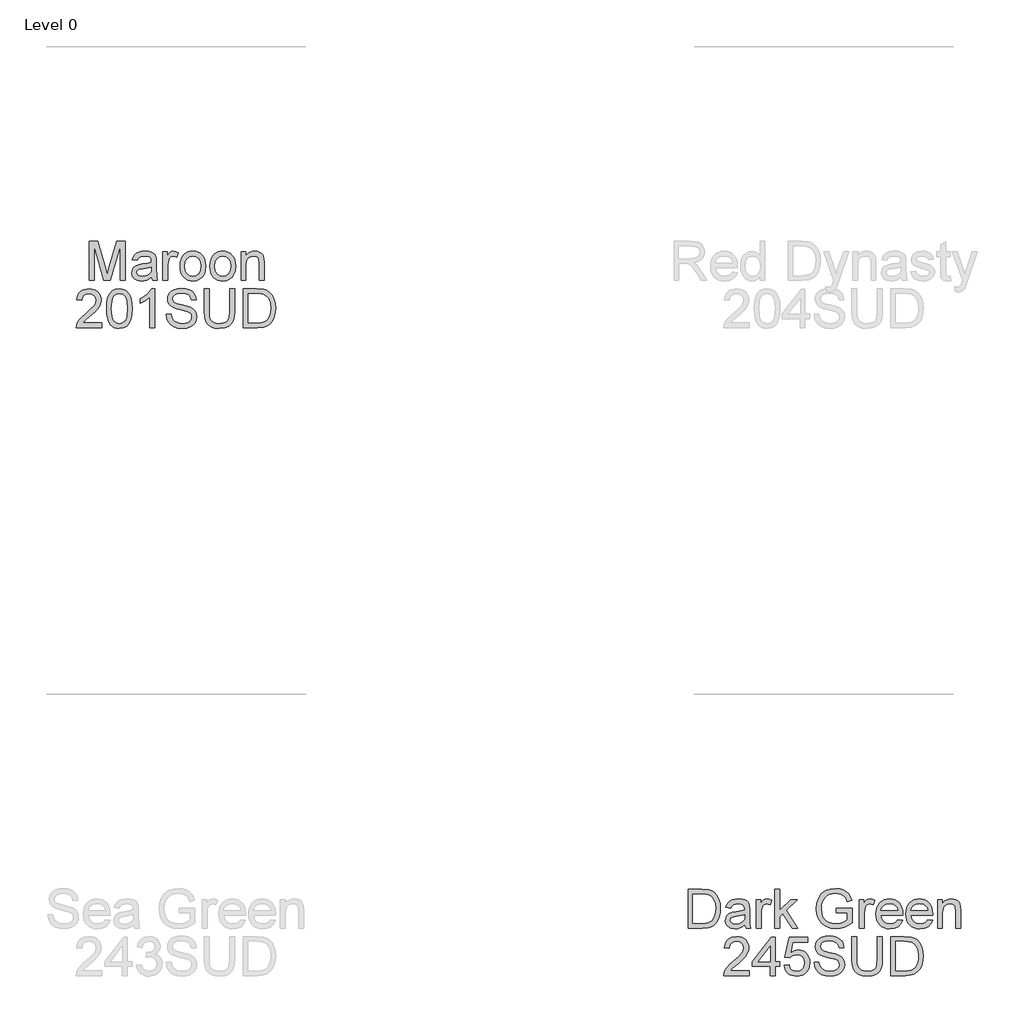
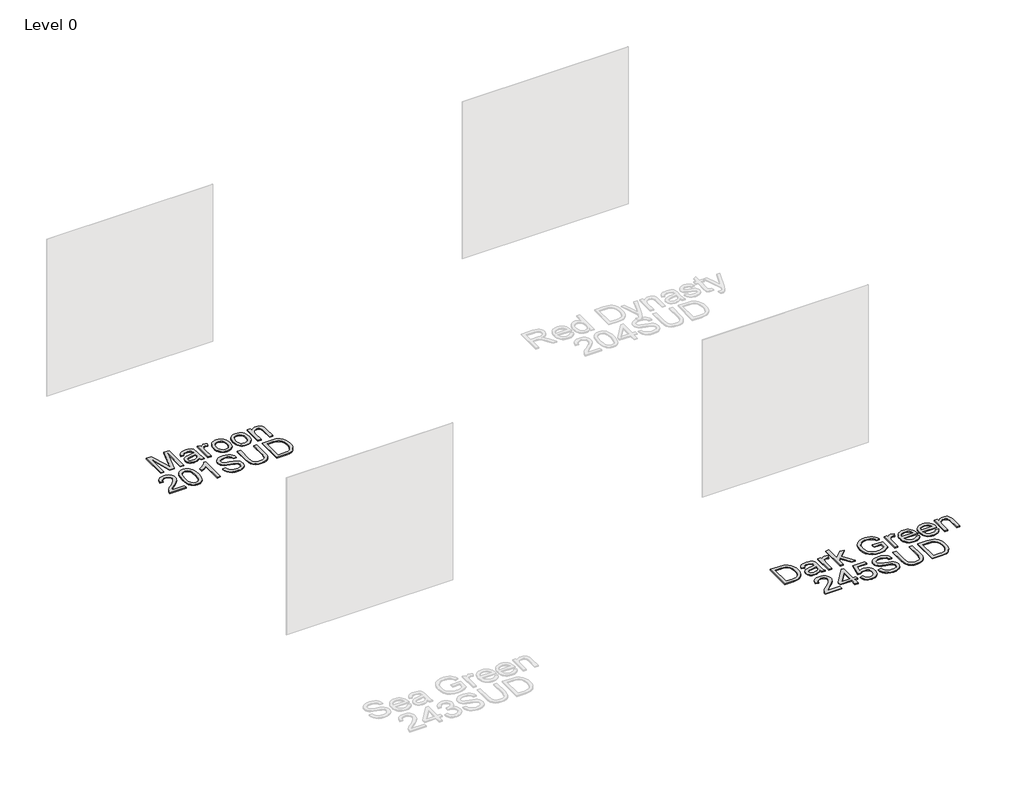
# One storey, part 22 of 37: 2 proxies.
"""IFC4 building model written with IfcOpenShell, lengths in millimetres."""

from ifc_helpers import new_model, si_unit, origin, origin_with_axes, place, context, project, spatial, polyline, outline, extrude, element, save

model = new_model("IFC4")

# Units and contexts
model_context = context("Model", 3, world=origin())
ifc_project = project(units=[si_unit("LENGTHUNIT", "METRE", prefix="MILLI")], contexts=[model_context])

# Site, building, storey
site = spatial("IfcSite", under=ifc_project)
building = spatial("IfcBuilding", under=site)
storey = spatial("IfcBuildingStorey", under=building, Name="Level 0", Elevation=0.0)

# Proxies
placement = place(None, origin())
element("IfcBuildingElementProxy", 1, Name="300mm Arial", ObjectType="300mm Arial", at=placement, inside=storey, context=model_context, shape_type="SweptSolid", body=[
    extrude(outline(polyline([(4501.6140214, -21972.860494), (4501.6140214, -21671.4915635), (4605.5774733, -21671.4915635), (4659.361821, -21675.8325711), (4683.3845152, -21684.2018865), (4703.6548132, -21697.390456), (4724.4953282, -21720.3462925), (4739.3393667, -21748.8939353), (4748.2237169, -21782.4815615), (4751.185167, -21820.557348), (4749.1802101, -21852.9033724), (4743.1653395, -21881.3682418), (4734.0050778, -21905.6024682), (4722.5639477, -21925.2565638), (4709.3937723, -21940.771987), (4695.0463745, -21952.590196), (4678.5744582, -21961.3549846), (4659.0307272, -21967.710146), (4610.5806684, -21972.860494), (4501.6140214, -21972.860494)]), holes=[polyline([(4539.2851377, -21935.1893777), (4605.9453553, -21935.1893777), (4633.5181108, -21933.8282143), (4654.4322022, -21929.7447241), (4670.2143398, -21923.1780305), (4682.3912339, -21914.3672567), (4695.4786358, -21898.0608873), (4705.3102822, -21876.9536578), (4711.4631085, -21850.9535978), (4713.5140507, -21819.9687368), (4709.4949399, -21778.9131061), (4697.4376075, -21748.5996297), (4679.6229218, -21727.7775088), (4658.3317514, -21715.1959446), (4636.6635019, -21710.670996), (4604.9152857, -21709.1626798), (4539.2851377, -21709.1626798), (4539.2851377, -21935.1893777)])]), origin_with_axes(), (0.0, 0.0, 1.0), 10.0),
    extrude(outline(polyline([(4939.5407485, -21944.6071568), (4921.5421219, -21960.0398064), (4903.0100664, -21970.1381672), (4883.5215177, -21975.7115794), (4862.6534115, -21977.5693835), (4831.1719098, -21973.0996173), (4807.9493588, -21959.6903186), (4793.6295522, -21939.3280501), (4788.8562833, -21913.9993748), (4790.658905, -21898.3827841), (4796.0667704, -21884.2009331), (4804.4084946, -21872.0608273), (4815.0126931, -21862.5694718), (4841.3898322, -21850.2086368), (4873.9841769, -21844.5432541), (4912.5014218, -21838.5835657), (4939.3200193, -21831.5938078), (4939.5407485, -21823.2060983), (4936.9471804, -21806.3938912), (4929.1664762, -21795.3942195), (4911.7656579, -21787.2272392), (4887.5222344, -21784.5049125), (4865.0814327, -21786.3167313), (4849.4096597, -21791.7521878), (4838.7226877, -21801.8045633), (4831.2362891, -21817.4671392), (4793.5651728, -21812.7582497), (4800.1042753, -21792.156858), (4809.8623452, -21775.9700502), (4823.7498905, -21763.590821), (4842.6774192, -21754.4121652), (4865.8263937, -21748.7283884), (4892.3782767, -21746.8337961), (4917.8449078, -21748.5076592), (4938.0324323, -21753.5292485), (4953.2535499, -21761.0800264), (4963.8209602, -21770.3414556), (4970.8291122, -21781.7917827), (4975.3724548, -21795.9092543), (4977.2118648, -21828.8714811), (4977.2118648, -21875.7396473), (4979.1248512, -21941.1858542), (4986.6296439, -21972.860494), (4948.9585276, -21972.860494), (4939.5407485, -21944.6071568)]), holes=[polyline([(4939.5407485, -21869.2649241), (4878.7666429, -21880.8164188), (4846.3562391, -21886.9232599), (4831.6777475, -21896.8560738), (4826.5273996, -21911.3506244), (4829.3324998, -21922.5526311), (4837.7478004, -21931.7312869), (4851.5893605, -21937.8565221), (4870.673239, -21939.8982672), (4890.9067487, -21937.64499), (4908.7858137, -21930.8851583), (4923.2803643, -21920.9247533), (4933.360331, -21909.069756), (4937.8300972, -21896.8560738), (4939.3200193, -21879.933502), (4939.5407485, -21869.2649241)])]), origin_with_axes(), (0.0, 0.0, 1.0), 10.0),
    extrude(outline(polyline([(5029.0096497, -21972.860494), (5029.0096497, -21751.5426857), (5061.9718765, -21751.5426857), (5061.9718765, -21784.2841833), (5074.1487705, -21765.3014723), (5085.3691714, -21754.1178596), (5096.6263604, -21748.654812), (5108.9136191, -21746.8337961), (5127.6756008, -21749.7400639), (5146.7318882, -21758.4588672), (5134.1503239, -21792.2304343), (5120.9065721, -21786.4362929), (5107.6628203, -21784.5049125), (5096.4148283, -21786.3627165), (5086.3624528, -21791.9361288), (5078.2414577, -21800.8020848), (5072.7876071, -21812.5375205), (5068.2074763, -21833.5803706), (5066.680766, -21856.5362071), (5066.680766, -21972.860494), (5029.0096497, -21972.860494)])), origin_with_axes(), (0.0, 0.0, 1.0), 10.0),
    extrude(outline(polyline([(5170.2763359, -21972.860494), (5170.2763359, -21671.4915635), (5207.9474522, -21671.4915635), (5207.9474522, -21833.4332178), (5292.4131583, -21751.5426857), (5344.5052488, -21751.5426857), (5259.0094731, -21834.4632874), (5349.2141383, -21972.860494), (5305.2154517, -21972.860494), (5232.0069347, -21860.6564855), (5207.9474522, -21883.9802039), (5207.9474522, -21972.860494), (5170.2763359, -21972.860494)])), origin_with_axes(), (0.0, 0.0, 1.0), 10.0),
    extrude(outline(polyline([(5645.8741792, -21855.1382555), (5645.8741792, -21817.4671392), (5768.3053072, -21817.4671392), (5768.3053072, -21930.1126061), (5738.5528509, -21950.8059684), (5707.8622954, -21965.6500069), (5676.3072173, -21974.5895394), (5643.9611929, -21977.5693835), (5601.7007487, -21972.8329028), (5563.5054005, -21958.6234608), (5531.7755784, -21935.437698), (5508.9117124, -21903.7722553), (5495.0885465, -21865.7884393), (5490.4808245, -21823.6475567), (5495.0701524, -21781.2031715), (5508.838136, -21741.7202364), (5531.2145584, -21708.6016598), (5561.6292023, -21685.2503502), (5598.6749192, -21671.399593), (5640.9445605, -21666.782674), (5671.9754068, -21669.4590155), (5699.8792561, -21677.4880401), (5723.3777186, -21690.2903335), (5741.1924042, -21707.2864817), (5754.3717767, -21729.295022), (5763.9642997, -21757.134492), (5729.2362393, -21766.9201531), (5721.4831263, -21747.0637224), (5712.0561502, -21732.0817281), (5699.5849505, -21720.7877509), (5682.6991669, -21711.9953712), (5662.5668248, -21706.3391855), (5640.3559493, -21704.4537903), (5614.3558893, -21706.4863383), (5592.1266197, -21712.5839824), (5573.7509141, -21721.9833674), (5559.3115458, -21733.9211381), (5539.9241646, -21762.9470275), (5531.0949967, -21791.3843058), (5528.1519408, -21822.1024524), (5531.692805, -21858.1272967), (5542.3153976, -21887.7693885), (5559.6978219, -21910.8171955), (5583.518181, -21927.0591856), (5611.3944392, -21936.6884968), (5640.9445605, -21939.8982672), (5667.036591, -21937.4794431), (5692.484828, -21930.2229707), (5714.5853389, -21920.2257775), (5730.6341909, -21909.5847908), (5730.6341909, -21855.1382555), (5645.8741792, -21855.1382555)])), origin_with_axes(), (0.0, 0.0, 1.0), 10.0),
    extrude(outline(polyline([(5824.8119817, -21972.860494), (5824.8119817, -21751.5426857), (5857.7742084, -21751.5426857), (5857.7742084, -21784.2841833), (5869.9511025, -21765.3014723), (5881.1715033, -21754.1178596), (5892.4286924, -21748.654812), (5904.715951, -21746.8337961), (5923.4779328, -21749.7400639), (5942.5342201, -21758.4588672), (5929.9526559, -21792.2304343), (5916.7089041, -21786.4362929), (5903.4651522, -21784.5049125), (5892.2171602, -21786.3627165), (5882.1647847, -21791.9361288), (5874.0437897, -21800.8020848), (5868.5899391, -21812.5375205), (5864.0098083, -21833.5803706), (5862.483098, -21856.5362071), (5862.483098, -21972.860494), (5824.8119817, -21972.860494)])), origin_with_axes(), (0.0, 0.0, 1.0), 10.0),
    extrude(outline(polyline([(6121.0305642, -21906.9360404), (6157.9659165, -21911.64493), (6144.6577853, -21939.4752029), (6123.4217972, -21960.2789297), (6094.7361986, -21973.2467701), (6059.0792362, -21977.5693835), (6035.7049339, -21975.7046817), (6014.8782145, -21970.1105761), (5996.5990779, -21960.7870668), (5980.867524, -21947.7341537), (5968.2169819, -21931.3151204), (5959.1808804, -21911.8932503), (5953.7592195, -21889.4685435), (5951.9519992, -21864.0409998), (5953.7776136, -21837.7512327), (5959.2544568, -21814.5792656), (5968.3825288, -21794.5250983), (5981.1618296, -21777.5887309), (5996.8519967, -21764.133447), (6014.7126676, -21754.5225298), (6034.7438422, -21748.7559796), (6056.9455206, -21746.8337961), (6078.4321284, -21748.751381), (6097.8631956, -21754.5041357), (6115.238722, -21764.0920602), (6130.5587079, -21777.5151545), (6143.0643964, -21794.4147337), (6151.9970311, -21814.4321128), (6157.356612, -21837.5672917), (6159.1431389, -21863.8202706), (6158.9224097, -21873.9738137), (5989.6231155, -21873.9738137), (5996.1438239, -21902.1719686), (6011.291365, -21922.902119), (6033.1527526, -21935.6492302), (6059.8150002, -21939.8982672), (6079.8645689, -21937.9300985), (6096.7503525, -21932.0255925), (6110.4723509, -21921.8168672), (6121.0305642, -21906.9360404)]), holes=[polyline([(5989.6231155, -21836.3026974), (6121.4720226, -21836.3026974), (6116.376857, -21816.4002814), (6106.3888608, -21802.1632482), (6084.4263057, -21788.9194964), (6056.7983678, -21784.5049125), (6031.4053131, -21788.0273826), (6010.4084482, -21798.5947929), (5995.8127301, -21815.0667092), (5989.6231155, -21836.3026974)])]), origin_with_axes(), (0.0, 0.0, 1.0), 10.0),
    extrude(outline(polyline([(6351.7661516, -21906.9360404), (6388.7015039, -21911.64493), (6375.3933727, -21939.4752029), (6354.1573845, -21960.2789297), (6325.471786, -21973.2467701), (6289.8148236, -21977.5693835), (6266.4405213, -21975.7046817), (6245.6138019, -21970.1105761), (6227.3346652, -21960.7870668), (6211.6031114, -21947.7341537), (6198.9525693, -21931.3151204), (6189.9164678, -21911.8932503), (6184.4948069, -21889.4685435), (6182.6875866, -21864.0409998), (6184.513201, -21837.7512327), (6189.9900442, -21814.5792656), (6199.1181162, -21794.5250983), (6211.897417, -21777.5887309), (6227.5875841, -21764.133447), (6245.448255, -21754.5225298), (6265.4794296, -21748.7559796), (6287.681108, -21746.8337961), (6309.1677158, -21748.751381), (6328.5987829, -21754.5041357), (6345.9743094, -21764.0920602), (6361.2942952, -21777.5151545), (6373.7999838, -21794.4147337), (6382.7326185, -21814.4321128), (6388.0921993, -21837.5672917), (6389.8787263, -21863.8202706), (6389.6579971, -21873.9738137), (6220.3587029, -21873.9738137), (6226.8794113, -21902.1719686), (6242.0269524, -21922.902119), (6263.88834, -21935.6492302), (6290.5505876, -21939.8982672), (6310.6001563, -21937.9300985), (6327.4859399, -21932.0255925), (6341.2079383, -21921.8168672), (6351.7661516, -21906.9360404)]), holes=[polyline([(6220.3587029, -21836.3026974), (6352.20761, -21836.3026974), (6347.1124443, -21816.4002814), (6337.1244482, -21802.1632482), (6315.1618931, -21788.9194964), (6287.5339552, -21784.5049125), (6262.1409005, -21788.0273826), (6241.1440356, -21798.5947929), (6226.5483175, -21815.0667092), (6220.3587029, -21836.3026974)])]), origin_with_axes(), (0.0, 0.0, 1.0), 10.0),
    extrude(outline(polyline([(6427.5498426, -21972.860494), (6427.5498426, -21751.5426857), (6465.2209589, -21751.5426857), (6465.2209589, -21782.4447733), (6478.3083609, -21766.8649708), (6494.0261191, -21755.7365404), (6512.3742336, -21749.0594822), (6533.3527044, -21746.8337961), (6551.9215481, -21748.6272209), (6568.9268933, -21754.0074951), (6583.1087442, -21762.303234), (6593.207105, -21772.8430532), (6604.5010823, -21800.5445674), (6606.487645, -21836.964885), (6606.487645, -21972.860494), (6568.8165287, -21972.860494), (6568.8165287, -21842.0416565), (6564.4755212, -21808.7115477), (6558.4698476, -21798.7879309), (6549.134842, -21791.0900002), (6537.1694801, -21786.1511844), (6523.2727377, -21784.5049125), (6501.2090151, -21788.2021265), (6482.4010481, -21799.2937687), (6474.884759, -21808.3482643), (6469.5159812, -21820.7228949), (6465.2209589, -21855.4325611), (6465.2209589, -21972.860494), (6427.5498426, -21972.860494)])), origin_with_axes(), (0.0, 0.0, 1.0), 10.0),
    extrude(outline(polyline([(4974.85742, -22301.1138312), (4974.85742, -22338.7849475), (4777.0840594, -22338.7849475), (4781.1307614, -22312.8124787), (4790.4197817, -22292.5145896), (4804.0130215, -22272.8237058), (4823.6763141, -22252.213117), (4851.1754932, -22229.156113), (4891.8264537, -22193.0484951), (4916.21703, -22166.3954446), (4928.4123181, -22144.7639833), (4932.4774142, -22123.7211331), (4928.6422444, -22104.8579838), (4917.136735, -22089.1770138), (4899.4508081, -22078.6096035), (4877.0743857, -22075.0871334), (4853.5759233, -22078.52683), (4835.3197793, -22088.84592), (4823.5383584, -22105.2350629), (4819.4640653, -22126.8849183), (4781.792949, -22122.1760288), (4790.9256195, -22085.7373171), (4799.4719781, -22071.2013798), (4810.6716856, -22059.1210548), (4824.2672246, -22049.6251008), (4840.0010776, -22042.8422765), (4877.8837261, -22037.4160171), (4898.0735498, -22038.9243332), (4916.042286, -22043.4492818), (4931.7899347, -22050.9908627), (4945.3164958, -22061.549076), (4956.180511, -22074.3421723), (4963.9405218, -22088.5884026), (4968.5965283, -22104.2877667), (4970.1485305, -22121.4402648), (4968.4746674, -22139.4572855), (4963.4530782, -22157.1616065), (4954.5411368, -22175.1694302), (4941.1962175, -22194.0969588), (4919.9234411, -22216.6941104), (4887.2279288, -22245.7108027), (4843.8914297, -22281.9471793), (4826.8952816, -22301.1138312), (4974.85742, -22301.1138312)])), origin_with_axes(), (0.0, 0.0, 1.0), 10.0),
    extrude(outline(polyline([(5134.9596643, -22338.7849475), (5134.9596643, -22268.1516044), (4998.4018677, -22268.1516044), (4998.4018677, -22230.4804881), (5144.3774434, -22042.1249066), (5172.6307806, -22042.1249066), (5172.6307806, -22230.4804881), (5210.3018969, -22230.4804881), (5210.3018969, -22268.1516044), (5172.6307806, -22268.1516044), (5172.6307806, -22338.7849475), (5134.9596643, -22338.7849475)]), holes=[polyline([(5134.9596643, -22230.4804881), (5134.9596643, -22114.0826249), (5044.7549991, -22230.4804881), (5134.9596643, -22230.4804881)])]), origin_with_axes(), (0.0, 0.0, 1.0), 10.0),
    extrude(outline(polyline([(5243.2641237, -22258.7338254), (5280.93524, -22254.0249358), (5287.8514215, -22276.6404815), (5299.917951, -22292.8364863), (5317.079646, -22302.5761621), (5339.2813244, -22305.8227207), (5366.2838629, -22301.3069693), (5386.5173726, -22287.7597148), (5399.1541192, -22266.7444558), (5403.366368, -22239.8246908), (5399.4208336, -22214.4776213), (5387.5842304, -22195.0902402), (5367.7645879, -22182.7845875), (5339.8699356, -22178.6827032), (5321.5953975, -22180.3197781), (5306.7973443, -22185.2310027), (5285.6441295, -22202.2271509), (5247.9730132, -22197.5182614), (5280.93524, -22042.1249066), (5426.9108157, -22042.1249066), (5426.9108157, -22079.7960229), (5311.3958692, -22079.7960229), (5295.2826378, -22162.790201), (5322.1932058, -22146.4562404), (5350.3913607, -22141.0115869), (5368.7371759, -22142.6992456), (5385.5884706, -22147.7622215), (5400.9452446, -22156.2005148), (5414.8074981, -22168.0141254), (5426.283117, -22182.4810848), (5434.4799877, -22198.8794248), (5439.3981102, -22217.2091452), (5441.0374843, -22237.470246), (5435.1329783, -22275.1413624), (5427.7523458, -22291.9351754), (5417.4194602, -22307.3678251), (5401.7660813, -22323.1729553), (5383.5007403, -22334.4623341), (5362.623437, -22341.2359613), (5339.1341716, -22343.4938371), (5302.13444, -22337.6904986), (5286.4557692, -22330.4363255), (5272.6578951, -22320.2804832), (5261.1776776, -22307.7288093), (5252.4519765, -22293.2871418), (5243.2641237, -22258.7338254)])), origin_with_axes(), (0.0, 0.0, 1.0), 10.0),
    extrude(outline(polyline([(5473.9997111, -22235.1893777), (5511.6708274, -22235.1893777), (5515.9934408, -22256.0942721), (5523.8109332, -22272.8972822), (5536.0062214, -22286.2330045), (5553.462222, -22296.7360355), (5574.7993778, -22303.5510494), (5598.638131, -22305.8227207), (5619.6257989, -22304.1028724), (5638.0015045, -22298.9433274), (5652.8915283, -22290.7763471), (5663.4221504, -22280.0341929), (5669.6853414, -22267.700949), (5671.7730717, -22254.7606998), (5670.2095732, -22242.1515444), (5665.5190778, -22231.2530403), (5655.9909341, -22221.9548229), (5639.9144909, -22214.1465276), (5585.0632854, -22199.7623415), (5549.0568351, -22190.2433949), (5526.0182252, -22181.1843008), (5507.2654405, -22168.510766), (5493.9757034, -22153.1516928), (5486.0570435, -22135.4381747), (5483.4174902, -22115.7013056), (5486.6824429, -22093.637583), (5496.477301, -22073.0637824), (5512.5445471, -22055.6261758), (5534.6266639, -22042.9710352), (5561.1325616, -22035.2731044), (5590.4711508, -22032.7071275), (5622.2561551, -22035.3926661), (5650.068034, -22043.4492818), (5672.9135059, -22056.7114277), (5689.7992895, -22075.013557), (5700.4862614, -22097.2152354), (5704.7352985, -22122.1760288), (5667.0641821, -22122.1760288), (5660.1480006, -22099.6984389), (5645.7270264, -22083.4748429), (5623.1942542, -22073.6523936), (5591.9426787, -22070.3782438), (5559.9553393, -22073.6156054), (5538.0111782, -22083.3276901), (5525.3192494, -22097.6199056), (5521.0886065, -22114.5976597), (5524.0868447, -22129.0738162), (5533.0815595, -22140.7172813), (5554.3451388, -22151.1283418), (5594.5914291, -22161.7601314), (5636.1253064, -22171.8584922), (5661.2516466, -22180.669266), (5682.7267581, -22194.3360821), (5697.7087523, -22211.2034716), (5706.5103291, -22231.0874934), (5709.444188, -22253.8042066), (5706.0688707, -22277.0267576), (5695.9429188, -22298.869751), (5679.4801995, -22317.668521), (5657.0945801, -22331.7584014), (5630.1748151, -22340.5599781), (5600.109659, -22343.4938371), (5563.2018979, -22340.3300519), (5532.8240421, -22330.8386964), (5508.6266039, -22314.9829824), (5490.2600953, -22292.7261217), (5478.4694773, -22265.6132187), (5473.9997111, -22235.1893777)])), origin_with_axes(), (0.0, 0.0, 1.0), 10.0),
    extrude(outline(polyline([(5963.7242231, -22037.4160171), (6001.3953394, -22037.4160171), (6001.3953394, -22211.277048), (5998.8385595, -22251.9923878), (5991.1682199, -22283.3451308), (5976.8392162, -22307.533372), (5954.306444, -22326.7552063), (5923.514721, -22339.3091794), (5884.4088649, -22343.4938371), (5846.1583345, -22339.8518053), (5815.5781436, -22328.92571), (5792.6590953, -22311.0926303), (5777.3919925, -22286.7296452), (5768.811145, -22254.052527), (5765.9508625, -22211.277048), (5765.9508625, -22037.4160171), (5803.6219788, -22037.4160171), (5803.6219788, -22209.9526728), (5805.4797828, -22243.8070134), (5811.0531951, -22267.3790523), (5821.1515558, -22283.7038158), (5836.5842055, -22295.8163305), (5856.7073507, -22303.3211232), (5880.8771977, -22305.8227207), (5919.1921075, -22300.8747079), (5933.5349068, -22294.6896919), (5944.6679357, -22286.0306694), (5953.0050614, -22273.8537754), (5958.9601512, -22257.1151446), (5963.7242231, -22209.9526728), (5963.7242231, -22037.4160171)])), origin_with_axes(), (0.0, 0.0, 1.0), 10.0),
    extrude(outline(polyline([(6067.3197929, -22338.7849475), (6067.3197929, -22037.4160171), (6171.2832447, -22037.4160171), (6225.0675924, -22041.7570246), (6249.0902867, -22050.12634), (6269.3605847, -22063.3149095), (6290.2010997, -22086.270746), (6305.0451382, -22114.8183889), (6313.9294884, -22148.406015), (6316.8909384, -22186.4818015), (6314.8859816, -22218.8278259), (6308.8711109, -22247.2926953), (6299.7108493, -22271.5269217), (6288.2697192, -22291.1810173), (6275.0995438, -22306.6964405), (6260.752146, -22318.5146496), (6244.2802296, -22327.2794381), (6224.7364986, -22333.6345996), (6176.2864399, -22338.7849475), (6067.3197929, -22338.7849475)]), holes=[polyline([(6104.9909092, -22301.1138312), (6171.6511267, -22301.1138312), (6199.2238823, -22299.7526678), (6220.1379737, -22295.6691777), (6235.9201113, -22289.1024841), (6248.0970053, -22280.2917103), (6261.1844073, -22263.9853408), (6271.0160536, -22242.8781114), (6277.16888, -22216.8780514), (6279.2198221, -22185.8931903), (6275.2007113, -22144.8375597), (6263.1433789, -22114.5240833), (6245.3286933, -22093.7019623), (6224.0375228, -22081.1203981), (6202.3692733, -22076.5954496), (6170.6210571, -22075.0871334), (6104.9909092, -22075.0871334), (6104.9909092, -22301.1138312)])]), origin_with_axes(), (0.0, 0.0, 1.0), 10.0),
])
element("IfcBuildingElementProxy", 2, Name="300mm Arial", ObjectType="300mm Arial", at=placement, inside=storey, context=model_context, shape_type="SweptSolid", body=[
    extrude(outline(polyline([(-121.6748155, -16972.860494), (-121.6748155, -16671.4915635), (-56.854008, -16671.4915635), (4.8030144, -16883.9066275), (17.2374259, -16928.2731962), (30.7019069, -16880.2278076), (91.3288597, -16671.4915635), (156.1496672, -16671.4915635), (156.1496672, -16972.860494), (118.4785509, -16972.860494), (118.4785509, -16709.1626798), (42.7684363, -16972.860494), (-8.2935846, -16972.860494), (-84.0036992, -16709.1626798), (-84.0036992, -16972.860494), (-121.6748155, -16972.860494)])), origin_with_axes(), (0.0, 0.0, 1.0), 10.0),
    extrude(outline(polyline([(358.6319174, -16944.6071568), (340.6332908, -16960.0398064), (322.1012353, -16970.1381672), (302.6126866, -16975.7115794), (281.7445804, -16977.5693835), (250.2630787, -16973.0996173), (227.0405277, -16959.6903186), (212.7207211, -16939.3280501), (207.9474522, -16913.9993748), (209.7500739, -16898.3827841), (215.1579393, -16884.2009331), (223.4996635, -16872.0608273), (234.103862, -16862.5694718), (260.4810011, -16850.2086368), (293.0753459, -16844.5432541), (331.5925907, -16838.5835657), (358.4111882, -16831.5938078), (358.6319174, -16823.2060983), (356.0383493, -16806.3938912), (348.2576451, -16795.3942195), (330.8568268, -16787.2272392), (306.6134033, -16784.5049125), (284.1726016, -16786.3167313), (268.5008286, -16791.7521878), (257.8138566, -16801.8045633), (250.327458, -16817.4671392), (212.6563417, -16812.7582497), (219.1954442, -16792.156858), (228.9535141, -16775.9700502), (242.8410594, -16763.590821), (261.7685881, -16754.4121652), (284.9175626, -16748.7283884), (311.4694456, -16746.8337961), (336.9360767, -16748.5076592), (357.1236012, -16753.5292485), (372.3447188, -16761.0800264), (382.9121291, -16770.3414556), (389.9202811, -16781.7917827), (394.4636237, -16795.9092543), (396.3030337, -16828.8714811), (396.3030337, -16875.7396473), (398.2160201, -16941.1858542), (405.7208128, -16972.860494), (368.0496965, -16972.860494), (358.6319174, -16944.6071568)]), holes=[polyline([(358.6319174, -16869.2649241), (297.8578118, -16880.8164188), (265.447408, -16886.9232599), (250.7689164, -16896.8560738), (245.6185685, -16911.3506244), (248.4236687, -16922.5526311), (256.8389693, -16931.7312869), (270.6805294, -16937.8565221), (289.7644079, -16939.8982672), (309.9979176, -16937.64499), (327.8769826, -16930.8851583), (342.3715332, -16920.9247533), (352.4514999, -16909.069756), (356.9212661, -16896.8560738), (358.4111882, -16879.933502), (358.6319174, -16869.2649241)])]), origin_with_axes(), (0.0, 0.0, 1.0), 10.0),
    extrude(outline(polyline([(448.1008186, -16972.860494), (448.1008186, -16751.5426857), (481.0630454, -16751.5426857), (481.0630454, -16784.2841833), (493.2399394, -16765.3014723), (504.4603403, -16754.1178596), (515.7175293, -16748.654812), (528.004788, -16746.8337961), (546.7667697, -16749.7400639), (565.8230571, -16758.4588672), (553.2414928, -16792.2304343), (539.997741, -16786.4362929), (526.7539892, -16784.5049125), (515.5059972, -16786.3627165), (505.4536217, -16791.9361288), (497.3326266, -16800.8020848), (491.878776, -16812.5375205), (487.2986452, -16833.5803706), (485.7719349, -16856.5362071), (485.7719349, -16972.860494), (448.1008186, -16972.860494)])), origin_with_axes(), (0.0, 0.0, 1.0), 10.0),
    extrude(outline(polyline([(579.9497257, -16862.2015898), (581.9868722, -16833.5389839), (588.0983119, -16808.8403064), (598.2840446, -16788.1055575), (612.5440705, -16771.334737), (626.9006653, -16760.6155754), (642.7471823, -16752.9590314), (660.0836213, -16748.3651049), (678.9099824, -16746.8337961), (699.6930159, -16748.698498), (718.484888, -16754.2926036), (735.2855989, -16763.6161129), (750.0951485, -16776.669026), (762.1823713, -16793.0098843), (770.8161018, -16812.1972296), (775.9963402, -16834.2310619), (777.7230863, -16859.1113811), (774.6696657, -16897.1687735), (765.5094041, -16926.1394806), (750.5090157, -16947.8353213), (729.9352151, -16964.0681143), (705.4986536, -16974.1940662), (678.9099824, -16977.5693835), (657.8234463, -16975.7115794), (638.8568302, -16970.1381672), (622.0101341, -16960.8491468), (607.2833579, -16947.8445183), (595.3248938, -16931.3450108), (586.7831338, -16911.5713536), (581.6580777, -16888.5235466), (579.9497257, -16862.2015898)]), holes=[polyline([(617.620842, -16862.1280134), (621.9802436, -16896.2214773), (635.0584486, -16920.5108861), (654.7401353, -16935.0514219), (678.9099824, -16939.8982672), (702.9694649, -16935.0238308), (722.6143634, -16920.4005215), (735.6925683, -16895.789216), (740.05197, -16860.950791), (735.6649772, -16827.8506085), (722.5039988, -16803.8922936), (702.8315091, -16789.3517577), (678.9099824, -16784.5049125), (654.7401353, -16789.3333636), (635.0584486, -16803.8187172), (621.9802436, -16828.0529436), (617.620842, -16862.1280134)])]), origin_with_axes(), (0.0, 0.0, 1.0), 10.0),
    extrude(outline(polyline([(810.6853131, -16862.2015898), (812.7224596, -16833.5389839), (818.8338993, -16808.8403064), (829.019632, -16788.1055575), (843.2796578, -16771.334737), (857.6362527, -16760.6155754), (873.4827696, -16752.9590314), (890.8192087, -16748.3651049), (909.6455698, -16746.8337961), (930.4286032, -16748.698498), (949.2204754, -16754.2926036), (966.0211863, -16763.6161129), (980.8307358, -16776.669026), (992.9179586, -16793.0098843), (1001.5516892, -16812.1972296), (1006.7319276, -16834.2310619), (1008.4586737, -16859.1113811), (1005.4052531, -16897.1687735), (996.2449914, -16926.1394806), (981.2446031, -16947.8353213), (960.6708025, -16964.0681143), (936.234241, -16974.1940662), (909.6455698, -16977.5693835), (888.5590337, -16975.7115794), (869.5924175, -16970.1381672), (852.7457214, -16960.8491468), (838.0189453, -16947.8445183), (826.0604812, -16931.3450108), (817.5187211, -16911.5713536), (812.3936651, -16888.5235466), (810.6853131, -16862.2015898)]), holes=[polyline([(848.3564294, -16862.1280134), (852.715831, -16896.2214773), (865.7940359, -16920.5108861), (885.4757227, -16935.0514219), (909.6455698, -16939.8982672), (933.7050523, -16935.0238308), (953.3499508, -16920.4005215), (966.4281557, -16895.789216), (970.7875574, -16860.950791), (966.4005646, -16827.8506085), (953.2395862, -16803.8922936), (933.5670965, -16789.3517577), (909.6455698, -16784.5049125), (885.4757227, -16789.3333636), (865.7940359, -16803.8187172), (852.715831, -16828.0529436), (848.3564294, -16862.1280134)])]), origin_with_axes(), (0.0, 0.0, 1.0), 10.0),
    extrude(outline(polyline([(1050.8386795, -16972.860494), (1050.8386795, -16751.5426857), (1088.5097958, -16751.5426857), (1088.5097958, -16782.4447733), (1101.5971978, -16766.8649708), (1117.314956, -16755.7365404), (1135.6630706, -16749.0594822), (1156.6415413, -16746.8337961), (1175.210385, -16748.6272209), (1192.2157303, -16754.0074951), (1206.3975812, -16762.303234), (1216.4959419, -16772.8430532), (1227.7899192, -16800.5445674), (1229.776482, -16836.964885), (1229.776482, -16972.860494), (1192.1053657, -16972.860494), (1192.1053657, -16842.0416565), (1187.7643581, -16808.7115477), (1181.7586846, -16798.7879309), (1172.4236789, -16791.0900002), (1160.458317, -16786.1511844), (1146.5615747, -16784.5049125), (1124.497852, -16788.2021265), (1105.689885, -16799.2937687), (1098.173596, -16808.3482643), (1092.8048181, -16820.7228949), (1088.5097958, -16855.4325611), (1088.5097958, -16972.860494), (1050.8386795, -16972.860494)])), origin_with_axes(), (0.0, 0.0, 1.0), 10.0),
    extrude(outline(polyline([(-25.14258, -17301.1138312), (-25.14258, -17338.7849475), (-222.9159406, -17338.7849475), (-218.8692386, -17312.8124787), (-209.5802183, -17292.5145896), (-195.9869785, -17272.8237058), (-176.3236859, -17252.213117), (-148.8245068, -17229.156113), (-108.1735463, -17193.0484951), (-83.78297, -17166.3954446), (-71.5876819, -17144.7639833), (-67.5225858, -17123.7211331), (-71.3577556, -17104.8579838), (-82.863265, -17089.1770138), (-100.5491919, -17078.6096035), (-122.9256143, -17075.0871334), (-146.4240767, -17078.52683), (-164.6802207, -17088.84592), (-176.4616416, -17105.2350629), (-180.5359347, -17126.8849183), (-218.207051, -17122.1760288), (-209.0743805, -17085.7373171), (-200.5280219, -17071.2013798), (-189.3283144, -17059.1210548), (-175.7327754, -17049.6251008), (-159.9989224, -17042.8422765), (-122.1162739, -17037.4160171), (-101.9264502, -17038.9243332), (-83.957714, -17043.4492818), (-68.2100653, -17050.9908627), (-54.6835042, -17061.549076), (-43.819489, -17074.3421723), (-36.0594782, -17088.5884026), (-31.4034717, -17104.2877667), (-29.8514695, -17121.4402648), (-31.5253326, -17139.4572855), (-36.5469218, -17157.1616065), (-45.4588632, -17175.1694302), (-58.8037825, -17194.0969588), (-80.0765589, -17216.6941104), (-112.7720712, -17245.7108027), (-156.1085703, -17281.9471793), (-173.1047184, -17301.1138312), (-25.14258, -17301.1138312)])), origin_with_axes(), (0.0, 0.0, 1.0), 10.0),
    extrude(outline(polyline([(12.5285363, -17190.5285035), (15.2968483, -17142.2899768), (23.6017844, -17103.8187172), (37.360571, -17074.5261133), (56.4904348, -17053.8235541), (81.1293314, -17041.5179013), (111.4152166, -17037.4160171), (134.6285705, -17039.8440382), (155.4139033, -17047.1281017), (172.7963275, -17058.983099), (185.8009561, -17075.1239216), (195.6234053, -17095.4126136), (203.4592918, -17119.7112194), (208.5912457, -17150.5673217), (210.3018969, -17190.5285035), (207.5611761, -17238.4911186), (199.3390135, -17276.8704077), (185.6630003, -17306.1906027), (166.5607277, -17326.9759355), (141.8666488, -17339.3643617), (111.4152166, -17343.4938371), (90.6666721, -17341.7004123), (72.2725723, -17336.3201381), (56.2329174, -17327.3530145), (42.5477071, -17314.7990414), (29.4143199, -17292.1053209), (20.033329, -17263.828991), (14.4047345, -17229.9700519), (12.5285363, -17190.5285035)]), holes=[polyline([(50.1996526, -17190.4549271), (54.6142366, -17249.7115194), (60.1324665, -17269.9795181), (67.8579884, -17284.0073184), (87.5764633, -17300.3688702), (111.4152166, -17305.8227207), (135.2539699, -17300.3504761), (154.9724449, -17283.933742), (162.6979668, -17269.8829491), (168.2161967, -17249.6195489), (172.6307806, -17190.4549271), (168.3633495, -17132.5319069), (163.0290606, -17112.3305869), (155.5610561, -17097.9693935), (135.8793693, -17080.8076984), (110.9737582, -17075.0871334), (87.3925223, -17080.1271167), (68.4465996, -17095.2470667), (60.4635603, -17110.8820515), (54.7613894, -17131.9616898), (50.1996526, -17190.4549271)])]), origin_with_axes(), (0.0, 0.0, 1.0), 10.0),
    extrude(outline(polyline([(384.5308099, -17338.7849475), (346.8596935, -17338.7849475), (346.8596935, -17103.9290818), (311.17514, -17129.3497277), (271.5174609, -17148.3692268), (271.5174609, -17112.7582497), (301.1043704, -17096.6634124), (326.7365484, -17077.5151545), (346.942467, -17057.1528861), (360.2505982, -17037.4160171), (384.5308099, -17037.4160171), (384.5308099, -17338.7849475)])), origin_with_axes(), (0.0, 0.0, 1.0), 10.0),
    extrude(outline(polyline([(473.9997111, -17235.1893777), (511.6708274, -17235.1893777), (515.9934408, -17256.0942721), (523.8109332, -17272.8972822), (536.0062214, -17286.2330045), (553.462222, -17296.7360355), (574.7993778, -17303.5510494), (598.638131, -17305.8227207), (619.6257989, -17304.1028724), (638.0015045, -17298.9433274), (652.8915283, -17290.7763471), (663.4221504, -17280.0341929), (669.6853414, -17267.700949), (671.7730717, -17254.7606998), (670.2095732, -17242.1515444), (665.5190778, -17231.2530403), (655.9909341, -17221.9548229), (639.9144909, -17214.1465276), (585.0632854, -17199.7623415), (549.0568351, -17190.2433949), (526.0182252, -17181.1843008), (507.2654405, -17168.510766), (493.9757034, -17153.1516928), (486.0570435, -17135.4381747), (483.4174902, -17115.7013056), (486.6824429, -17093.637583), (496.477301, -17073.0637824), (512.5445471, -17055.6261758), (534.6266639, -17042.9710352), (561.1325616, -17035.2731044), (590.4711508, -17032.7071275), (622.2561551, -17035.3926661), (650.068034, -17043.4492818), (672.9135059, -17056.7114277), (689.7992895, -17075.013557), (700.4862614, -17097.2152354), (704.7352985, -17122.1760288), (667.0641821, -17122.1760288), (660.1480006, -17099.6984389), (645.7270264, -17083.4748429), (623.1942542, -17073.6523936), (591.9426787, -17070.3782438), (559.9553393, -17073.6156054), (538.0111782, -17083.3276901), (525.3192494, -17097.6199056), (521.0886065, -17114.5976597), (524.0868447, -17129.0738162), (533.0815595, -17140.7172813), (554.3451388, -17151.1283418), (594.5914291, -17161.7601314), (636.1253064, -17171.8584922), (661.2516466, -17180.669266), (682.7267581, -17194.3360821), (697.7087523, -17211.2034716), (706.5103291, -17231.0874934), (709.444188, -17253.8042066), (706.0688707, -17277.0267576), (695.9429188, -17298.869751), (679.4801995, -17317.668521), (657.0945801, -17331.7584014), (630.1748151, -17340.5599781), (600.109659, -17343.4938371), (563.2018979, -17340.3300519), (532.8240421, -17330.8386964), (508.6266039, -17314.9829824), (490.2600953, -17292.7261217), (478.4694773, -17265.6132187), (473.9997111, -17235.1893777)])), origin_with_axes(), (0.0, 0.0, 1.0), 10.0),
    extrude(outline(polyline([(963.7242231, -17037.4160171), (1001.3953394, -17037.4160171), (1001.3953394, -17211.277048), (998.8385595, -17251.9923878), (991.1682199, -17283.3451308), (976.8392162, -17307.533372), (954.306444, -17326.7552063), (923.514721, -17339.3091794), (884.4088649, -17343.4938371), (846.1583345, -17339.8518053), (815.5781436, -17328.92571), (792.6590953, -17311.0926303), (777.3919925, -17286.7296452), (768.811145, -17254.052527), (765.9508625, -17211.277048), (765.9508625, -17037.4160171), (803.6219788, -17037.4160171), (803.6219788, -17209.9526728), (805.4797828, -17243.8070134), (811.0531951, -17267.3790523), (821.1515558, -17283.7038158), (836.5842055, -17295.8163305), (856.7073507, -17303.3211232), (880.8771977, -17305.8227207), (919.1921075, -17300.8747079), (933.5349068, -17294.6896919), (944.6679357, -17286.0306694), (953.0050614, -17273.8537754), (958.9601512, -17257.1151446), (963.7242231, -17209.9526728), (963.7242231, -17037.4160171)])), origin_with_axes(), (0.0, 0.0, 1.0), 10.0),
    extrude(outline(polyline([(1067.3197929, -17338.7849475), (1067.3197929, -17037.4160171), (1171.2832447, -17037.4160171), (1225.0675924, -17041.7570246), (1249.0902867, -17050.12634), (1269.3605847, -17063.3149095), (1290.2010997, -17086.270746), (1305.0451382, -17114.8183889), (1313.9294884, -17148.406015), (1316.8909384, -17186.4818015), (1314.8859816, -17218.8278259), (1308.8711109, -17247.2926953), (1299.7108493, -17271.5269217), (1288.2697192, -17291.1810173), (1275.0995438, -17306.6964405), (1260.752146, -17318.5146496), (1244.2802296, -17327.2794381), (1224.7364986, -17333.6345996), (1176.2864399, -17338.7849475), (1067.3197929, -17338.7849475)]), holes=[polyline([(1104.9909092, -17301.1138312), (1171.6511267, -17301.1138312), (1199.2238823, -17299.7526678), (1220.1379737, -17295.6691777), (1235.9201113, -17289.1024841), (1248.0970053, -17280.2917103), (1261.1844073, -17263.9853408), (1271.0160536, -17242.8781114), (1277.16888, -17216.8780514), (1279.2198221, -17185.8931903), (1275.2007113, -17144.8375597), (1263.1433789, -17114.5240833), (1245.3286933, -17093.7019623), (1224.0375228, -17081.1203981), (1202.3692733, -17076.5954496), (1170.6210571, -17075.0871334), (1104.9909092, -17075.0871334), (1104.9909092, -17301.1138312)])]), origin_with_axes(), (0.0, 0.0, 1.0), 10.0),
])

save(model, "model.ifc")
